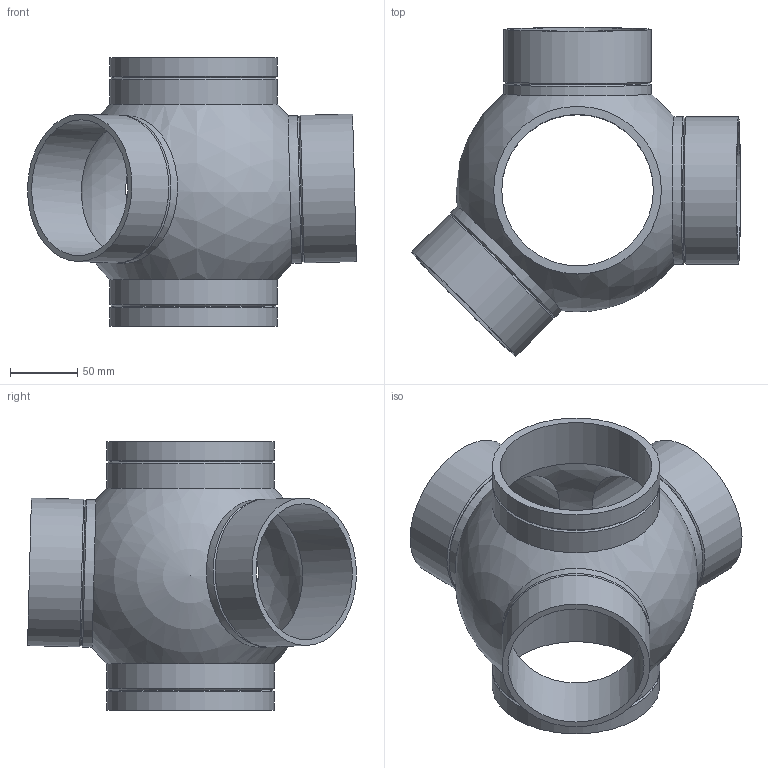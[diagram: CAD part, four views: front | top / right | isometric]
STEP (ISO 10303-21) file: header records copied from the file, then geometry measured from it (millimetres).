
FILE_DESCRIPTION(/* description */ (''),/* implementation_level */ '2;1');
FILE_NAME(/* name */ 'H:\Geberit-Teile\Export\368.600.16.1\stp\368600.stp',/* time_stamp */ '2016-05-09T13:38:03+02:00',/* author */ ('seihe2'),/* organization */ (''),/* preprocessor_version */ 'ST-DEVELOPER v15.2',/* originating_system */ 'Autodesk Inventor 2014',/* authorisation */ '');
FILE_SCHEMA (('AUTOMOTIVE_DESIGN { 1 0 10303 214 3 1 1 }'));
Length unit declared in the file: millimetre
Products named in the file (1): 368600
Bounding box: 245.11 x 245.11 x 200 mm (x, y, z)
Volume: 620639 mm3; surface area: 246431 mm2
Topology: 1 solids, 1 shells, 32 faces, 82 edges, 53 vertices
Faces by surface type: cylinder 15, cone 10, plane 5, sphere 2
Full cylindrical faces by diameter (mm): 101.4 x3, 110 x6, 113 x2, 125 x4
Entity records: 746 total; most frequent: DIRECTION 136, CARTESIAN_POINT 103, EDGE_LOOP 70, ORIENTED_EDGE 70, AXIS2_PLACEMENT_3D 68, FACE_BOUND 43, CIRCLE 35, VERTEX_POINT 35
